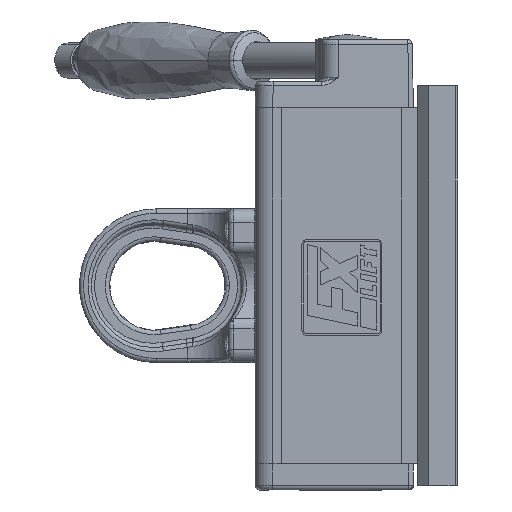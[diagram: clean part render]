
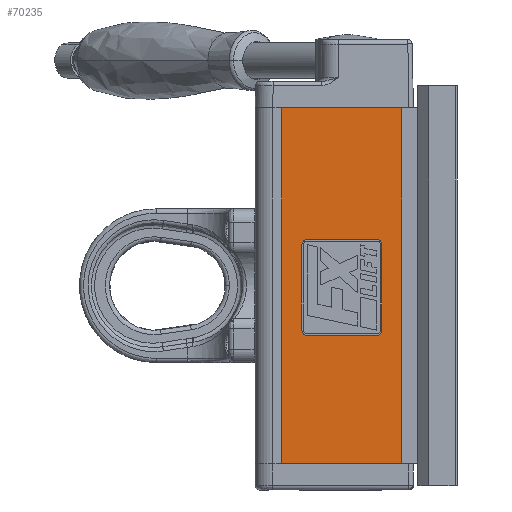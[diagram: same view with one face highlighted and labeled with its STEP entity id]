
A CAD part, left-side view. The second image highlights one B-rep face of the part: STEP entity #70235.
In plain terms, the highlighted planar face has unit normal (-1, 0, 0).
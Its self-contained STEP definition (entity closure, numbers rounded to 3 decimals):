
#529 = CARTESIAN_POINT ( 'NONE',  ( -42., -15.695, 19.983 ) ) ;
#966 = CARTESIAN_POINT ( 'NONE',  ( -42., 30., 81. ) ) ;
#1001 = CARTESIAN_POINT ( 'NONE',  ( -42., 19.645, -22.644 ) ) ;
#1260 = DIRECTION ( 'NONE',  ( 0., -1., 0. ) ) ;
#1785 = EDGE_CURVE ( 'NONE', #56589, #55691, #50422, .T. ) ;
#1866 = CARTESIAN_POINT ( 'NONE',  ( -42., 0., -81. ) ) ;
#1968 = CARTESIAN_POINT ( 'NONE',  ( -42., -13.266, -22.644 ) ) ;
#2751 = CARTESIAN_POINT ( 'NONE',  ( -42., 20.738, 18.647 ) ) ;
#2981 = VERTEX_POINT ( 'NONE', #33170 ) ;
#4937 = DIRECTION ( 'NONE',  ( 0., 1., 0. ) ) ;
#5404 = ORIENTED_EDGE ( 'NONE', *, *, #73022, .T. ) ;
#6405 = FACE_BOUND ( 'NONE', #46810, .T. ) ;
#6702 = CARTESIAN_POINT ( 'NONE',  ( -42., 20.738, -20.215 ) ) ;
#7653 = CARTESIAN_POINT ( 'NONE',  ( -42., -15.695, -20.215 ) ) ;
#8706 = VECTOR ( 'NONE', #70280, 1000. ) ;
#9068 = EDGE_CURVE ( 'NONE', #37198, #54547, #68603, .T. ) ;
#12186 = ORIENTED_EDGE ( 'NONE', *, *, #69005, .T. ) ;
#12391 = LINE ( 'NONE', #1866, #70596 ) ;
#14001 = LINE ( 'NONE', #21994, #23689 ) ;
#14437 = EDGE_CURVE ( 'NONE', #25073, #65434, #70987, .T. ) ;
#15070 = ORIENTED_EDGE ( 'NONE', *, *, #42909, .T. ) ;
#17468 = ORIENTED_EDGE ( 'NONE', *, *, #33495, .F. ) ;
#18439 = CARTESIAN_POINT ( 'NONE',  ( -42., -15.695, 18.647 ) ) ;
#18657 = B_SPLINE_CURVE_WITH_KNOTS ( 'NONE', 3,
 ( #2751, #35686, #52698, #42102 ),
 .UNSPECIFIED., .F., .F.,
 ( 4, 4 ),
 ( 0.111, 0.222 ),
 .UNSPECIFIED. ) ;
#18959 = CARTESIAN_POINT ( 'NONE',  ( -42., -13.266, -22.644 ) ) ;
#20503 = CARTESIAN_POINT ( 'NONE',  ( -42., -25.5, 81. ) ) ;
#21057 = ORIENTED_EDGE ( 'NONE', *, *, #1785, .F. ) ;
#21994 = CARTESIAN_POINT ( 'NONE',  ( -42., 0., 81. ) ) ;
#22467 = EDGE_CURVE ( 'NONE', #58495, #55108, #18657, .T. ) ;
#23448 = CARTESIAN_POINT ( 'NONE',  ( -42., 20.738, -21.551 ) ) ;
#23637 = ORIENTED_EDGE ( 'NONE', *, *, #47722, .T. ) ;
#23689 = VECTOR ( 'NONE', #44395, 1000. ) ;
#23840 = VECTOR ( 'NONE', #1260, 1000. ) ;
#23876 = ORIENTED_EDGE ( 'NONE', *, *, #22467, .T. ) ;
#25073 = VERTEX_POINT ( 'NONE', #1968 ) ;
#25942 = DIRECTION ( 'NONE',  ( 0., 1., 0. ) ) ;
#26030 = DIRECTION ( 'NONE',  ( 0., 0., 1. ) ) ;
#27329 = PLANE ( 'NONE',  #32172 ) ;
#28270 = ORIENTED_EDGE ( 'NONE', *, *, #9068, .T. ) ;
#28620 = CARTESIAN_POINT ( 'NONE',  ( -42., 20.738, -20.215 ) ) ;
#30911 = CARTESIAN_POINT ( 'NONE',  ( -42., -25.5, 81. ) ) ;
#31159 = CARTESIAN_POINT ( 'NONE',  ( -42., -25.5, -81. ) ) ;
#32119 = B_SPLINE_CURVE_WITH_KNOTS ( 'NONE', 3,
 ( #40359, #1001, #23448, #6702 ),
 .UNSPECIFIED., .F., .F.,
 ( 4, 4 ),
 ( 0.778, 1. ),
 .UNSPECIFIED. ) ;
#32172 = AXIS2_PLACEMENT_3D ( 'NONE', #44051, #38597, #4937 ) ;
#33170 = CARTESIAN_POINT ( 'NONE',  ( -42., -13.266, 21.076 ) ) ;
#33495 = EDGE_CURVE ( 'NONE', #59972, #56589, #14001, .T. ) ;
#35380 = VECTOR ( 'NONE', #52147, 1000. ) ;
#35686 = CARTESIAN_POINT ( 'NONE',  ( -42., 20.738, 19.983 ) ) ;
#37198 = VERTEX_POINT ( 'NONE', #18439 ) ;
#38597 = DIRECTION ( 'NONE',  ( 1., 0., 0. ) ) ;
#38881 = EDGE_CURVE ( 'NONE', #65434, #66974, #32119, .T. ) ;
#39500 = ORIENTED_EDGE ( 'NONE', *, *, #46979, .T. ) ;
#39632 = CARTESIAN_POINT ( 'NONE',  ( -42., -14.602, 21.076 ) ) ;
#39876 = CARTESIAN_POINT ( 'NONE',  ( -42., -15.695, 18.647 ) ) ;
#40359 = CARTESIAN_POINT ( 'NONE',  ( -42., 18.309, -22.644 ) ) ;
#41218 = DIRECTION ( 'NONE',  ( 0., -1., 0. ) ) ;
#41316 = CARTESIAN_POINT ( 'NONE',  ( -42., -15.695, -21.551 ) ) ;
#41347 = CARTESIAN_POINT ( 'NONE',  ( -42., -15.695, -20.215 ) ) ;
#41893 = B_SPLINE_CURVE_WITH_KNOTS ( 'NONE', 3,
 ( #7653, #41316, #52674, #18959 ),
 .UNSPECIFIED., .F., .F.,
 ( 4, 4 ),
 ( 0.556, 0.667 ),
 .UNSPECIFIED. ) ;
#42102 = CARTESIAN_POINT ( 'NONE',  ( -42., 18.309, 21.076 ) ) ;
#42844 = VECTOR ( 'NONE', #26030, 1000. ) ;
#42909 = EDGE_CURVE ( 'NONE', #2981, #37198, #45605, .T. ) ;
#44051 = CARTESIAN_POINT ( 'NONE',  ( -42., 0., 81. ) ) ;
#44395 = DIRECTION ( 'NONE',  ( 0., -1., 0. ) ) ;
#44606 = LINE ( 'NONE', #59754, #42844 ) ;
#45605 = B_SPLINE_CURVE_WITH_KNOTS ( 'NONE', 3,
 ( #68004, #39632, #529, #39876 ),
 .UNSPECIFIED., .F., .F.,
 ( 4, 4 ),
 ( 0.333, 0.444 ),
 .UNSPECIFIED. ) ;
#46810 = EDGE_LOOP ( 'NONE', ( #68576, #23637, #23876, #5404, #15070, #28270, #56457, #67927 ) ) ;
#46979 = EDGE_CURVE ( 'NONE', #68752, #55691, #12391, .T. ) ;
#47564 = CARTESIAN_POINT ( 'NONE',  ( -42., -15.695, 0. ) ) ;
#47722 = EDGE_CURVE ( 'NONE', #66974, #58495, #44606, .T. ) ;
#48276 = EDGE_CURVE ( 'NONE', #54547, #25073, #41893, .T. ) ;
#50422 = LINE ( 'NONE', #30911, #35380 ) ;
#51380 = VECTOR ( 'NONE', #68614, 1000. ) ;
#52147 = DIRECTION ( 'NONE',  ( 0., 0., -1. ) ) ;
#52674 = CARTESIAN_POINT ( 'NONE',  ( -42., -14.602, -22.644 ) ) ;
#52698 = CARTESIAN_POINT ( 'NONE',  ( -42., 19.645, 21.076 ) ) ;
#54212 = VECTOR ( 'NONE', #25942, 1000. ) ;
#54547 = VERTEX_POINT ( 'NONE', #41347 ) ;
#55108 = VERTEX_POINT ( 'NONE', #72088 ) ;
#55691 = VERTEX_POINT ( 'NONE', #31159 ) ;
#56457 = ORIENTED_EDGE ( 'NONE', *, *, #48276, .T. ) ;
#56589 = VERTEX_POINT ( 'NONE', #20503 ) ;
#57161 = CARTESIAN_POINT ( 'NONE',  ( -42., 0., 21.076 ) ) ;
#58495 = VERTEX_POINT ( 'NONE', #68193 ) ;
#59754 = CARTESIAN_POINT ( 'NONE',  ( -42., 20.738, 0. ) ) ;
#59972 = VERTEX_POINT ( 'NONE', #966 ) ;
#62783 = FACE_OUTER_BOUND ( 'NONE', #69827, .T. ) ;
#62980 = CARTESIAN_POINT ( 'NONE',  ( -42., 30., 81. ) ) ;
#64232 = CARTESIAN_POINT ( 'NONE',  ( -42., 18.309, -22.644 ) ) ;
#65330 = CARTESIAN_POINT ( 'NONE',  ( -42., 0., -22.644 ) ) ;
#65434 = VERTEX_POINT ( 'NONE', #64232 ) ;
#66421 = LINE ( 'NONE', #62980, #51380 ) ;
#66974 = VERTEX_POINT ( 'NONE', #28620 ) ;
#67055 = LINE ( 'NONE', #57161, #23840 ) ;
#67927 = ORIENTED_EDGE ( 'NONE', *, *, #14437, .T. ) ;
#68004 = CARTESIAN_POINT ( 'NONE',  ( -42., -13.266, 21.076 ) ) ;
#68193 = CARTESIAN_POINT ( 'NONE',  ( -42., 20.738, 18.647 ) ) ;
#68576 = ORIENTED_EDGE ( 'NONE', *, *, #38881, .T. ) ;
#68603 = LINE ( 'NONE', #47564, #8706 ) ;
#68614 = DIRECTION ( 'NONE',  ( 0., 0., -1. ) ) ;
#68752 = VERTEX_POINT ( 'NONE', #72851 ) ;
#69005 = EDGE_CURVE ( 'NONE', #59972, #68752, #66421, .T. ) ;
#69827 = EDGE_LOOP ( 'NONE', ( #39500, #21057, #17468, #12186 ) ) ;
#70235 = ADVANCED_FACE ( 'NONE', ( #62783, #6405 ), #27329, .F. ) ;
#70280 = DIRECTION ( 'NONE',  ( 0., 0., -1. ) ) ;
#70596 = VECTOR ( 'NONE', #41218, 1000. ) ;
#70987 = LINE ( 'NONE', #65330, #54212 ) ;
#72088 = CARTESIAN_POINT ( 'NONE',  ( -42., 18.309, 21.076 ) ) ;
#72851 = CARTESIAN_POINT ( 'NONE',  ( -42., 30., -81. ) ) ;
#73022 = EDGE_CURVE ( 'NONE', #55108, #2981, #67055, .T. ) ;
